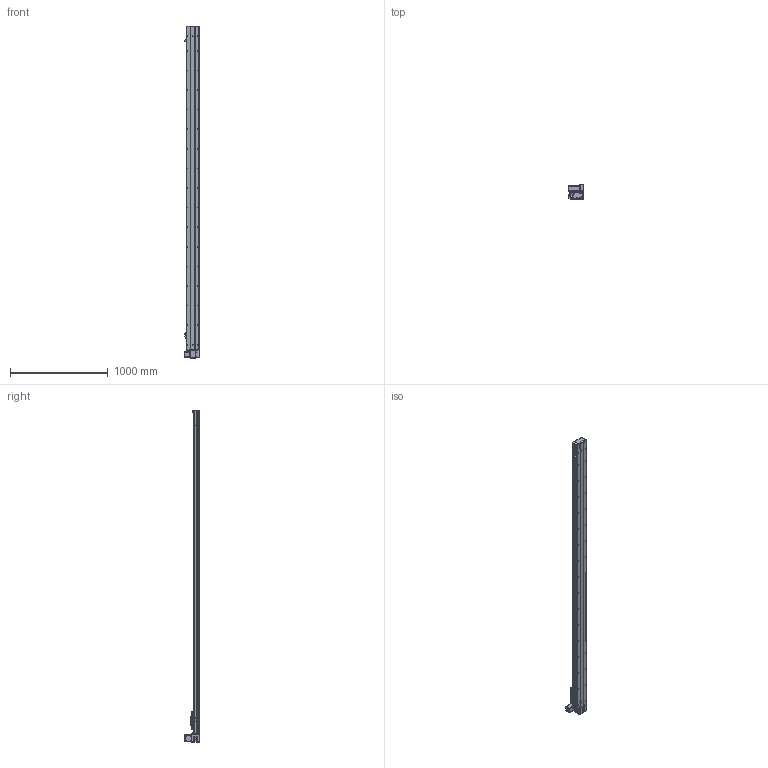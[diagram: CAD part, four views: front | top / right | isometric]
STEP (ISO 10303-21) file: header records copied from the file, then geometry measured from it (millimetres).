
FILE_DESCRIPTION (( 'STEP AP203' ), '1' );
FILE_NAME ('Y135CB-D90-S3000-UL-P400W.STEP', '2020-02-18T08:17:13', ( '微软用户' ), ( '微软中国' ), 'SwSTEP 2.0', 'SolidWorks 2017', '' );
FILE_SCHEMA (( 'CONFIG_CONTROL_DESIGN' ));
Length unit declared in the file: millimetre
Products named in the file (18): Y10B-耜蚾蟀諉啣----; san松下电机400不带刹车----; 00B-俋欶BM--; 5CB --掛极耜裔啣-; Y10B--々湍喘謫眊--666; C-詩湍揤踡え-陔; Y135CB-耜裔; Y135CB-D90-S3000-UL-P400W; 135CB--詩湍-CE; 135CB---遴掛极.-; Y100-135俋离換覜ん--; 35CB---喘謫眊楊擘啣; Y135C-陔俋离換覜結え-; 0B-埴倛裔啣; 5C--俋欶; 0B-源倛裔啣; C-雄赽釱--; 0B-萇儂楊擘啣
Assembly tree (21 placements, depth 2):
  Y135CB-D90-S3000-UL-P400W
    Y135CB-耜裔
    135CB---遴掛极.-
    35CB---喘謫眊楊擘啣
    0B-埴倛裔啣
    0B-源倛裔啣
    0B-萇儂楊擘啣
    san松下电机400不带刹车----
    5CB --掛极耜裔啣-  x2
    C-詩湍揤踡え-陔  x2
    135CB--詩湍-CE
    Y100-135俋离換覜ん--  x3
    Y135C-陔俋离換覜結え-
    5C--俋欶
    C-雄赽釱--
    Y10B-耜蚾蟀諉啣----
    00B-俋欶BM--
    Y10B--々湍喘謫眊--666
Bounding box: 157 x 158.7 x 3388 mm (x, y, z)
Volume: 9580275.2 mm3; surface area: 3801264.5 mm2
Topology: 21 solids, 21 shells, 985 faces, 2707 edges, 1794 vertices
Faces by surface type: cylinder 513, plane 456, cone 16
Entity records: 31369 total; most frequent: CARTESIAN_POINT 5252, DIRECTION 5215, ORIENTED_EDGE 4890, EDGE_CURVE 2445, AXIS2_PLACEMENT_3D 1917, VERTEX_POINT 1622, LINE 1381, VECTOR 1381
